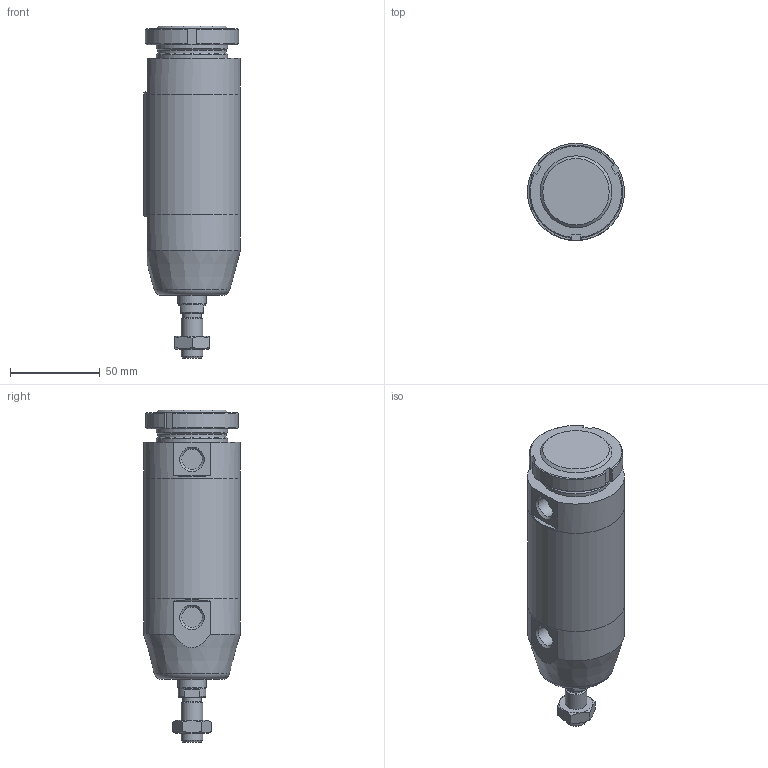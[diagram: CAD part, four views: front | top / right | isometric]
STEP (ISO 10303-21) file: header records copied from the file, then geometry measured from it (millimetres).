
FILE_DESCRIPTION(/* description */ (''),/* implementation_level */ '2;1');
FILE_NAME(/* name */ 'I:\Area Tecnica\Documenti\A-Manieri\_Inventor\12X\12X#B_###_####_#_#\12XAB_050_0025_#_#.stp',/* time_stamp */ '2015-04-27T16:25:05+02:00',/* author */ ('maniean1'),/* organization */ ('Pneumax S.p.A.'),/* preprocessor_version */ 'ST-DEVELOPER v15.2',/* originating_system */ 'Autodesk Inventor 2014',/* authorisation */ '');
FILE_SCHEMA (('AUTOMOTIVE_DESIGN { 1 0 10303 214 3 1 1 }'));
Length unit declared in the file: millimetre
Products named in the file (7): C1250_619-0025; 12X50_613; S12X50_0025; 12X_50_11; 12X50_620; G12X_050_05; 12XAB_050_0025_#_#
Bounding box: 54 x 54 x 185 mm (x, y, z)
Volume: 280032.5 mm3; surface area: 66490.2 mm2
Topology: 6 solids, 6 shells, 80 faces, 175 edges, 112 vertices
Faces by surface type: plane 40, cylinder 20, cone 19, torus 1
Full cylindrical faces by diameter (mm): 10.2 x1, 11.4 x2, 12 x2, 14 x1, 15.6 x1, 16 x1, 38.2 x1, 40 x3, 50 x2, 54 x3
Entity records: 2134 total; most frequent: CARTESIAN_POINT 399, DIRECTION 359, ORIENTED_EDGE 282, AXIS2_PLACEMENT_3D 154, EDGE_CURVE 141, EDGE_LOOP 122, VERTEX_POINT 107, ADVANCED_FACE 80
